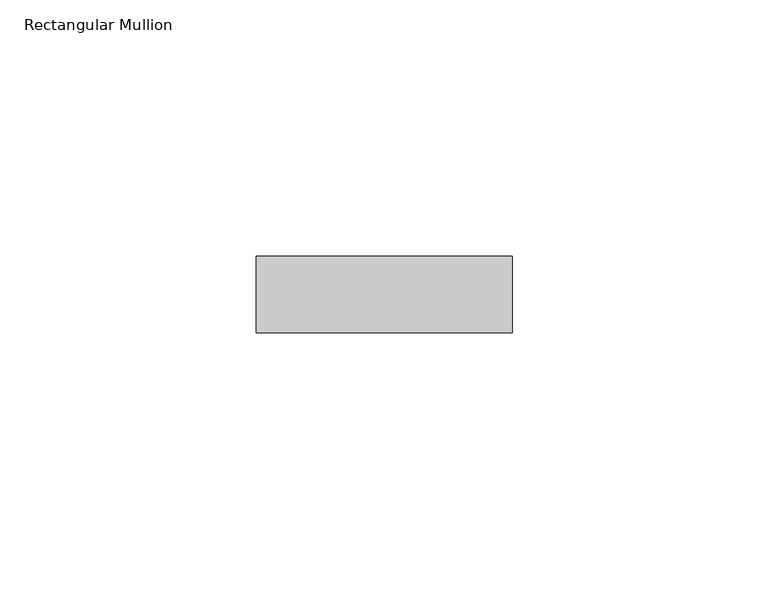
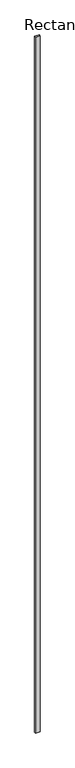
"""IFC4 building model written with IfcOpenShell, lengths in millimetres: member geometry, Rectangular Mullion : Ripa."""

import ifcopenshell
import ifcopenshell.guid

model = None  # the IFC model being written
_history = None  # IfcOwnerHistory: only IFC2X3 demands one
_inside = {}  # id of a spatial element -> (the spatial element, [elements in it])
_under = {}  # id of a project, library or spatial element -> (it, [spatial elements below it])
_declared = {}  # id of a project -> (the project, [libraries it declares])
_typed = {}  # id of a type object -> (the type object, [elements of that type])
_made_of = {}  # id of a material, layer set ... -> (it, [elements and type objects made of it])


def new_model(schema):
    """Start an empty IFC model of exactly this schema.

    Asked for "IFC4X3", IfcOpenShell would pick the latest addendum, in which some entities
    have other attributes; the version numbers below select the first issue.
    IFC2X3 requires an IfcOwnerHistory on every rooted entity: one is made here for all.
    """
    global model, _history
    if schema == "IFC4X3":
        model = ifcopenshell.file(schema_version=(4, 3, 0, 0))
    else:
        model = ifcopenshell.file(schema=schema)
    _inside.clear()
    _under.clear()
    _declared.clear()
    _typed.clear()
    _made_of.clear()
    _history = None
    if model.schema == "IFC2X3":
        org = make("IfcOrganization", Name="unknown")
        user = make(
            "IfcPersonAndOrganization",
            ThePerson=make("IfcPerson", FamilyName="unknown"),
            TheOrganization=org,
        )
        app = make(
            "IfcApplication",
            ApplicationDeveloper=org,
            Version="unknown",
            ApplicationFullName="unknown",
            ApplicationIdentifier="unknown",
        )
        _history = make(
            "IfcOwnerHistory",
            OwningUser=user,
            OwningApplication=app,
            ChangeAction="ADDED",
            CreationDate=0,
        )
    return model


def make(cls, **values):
    """One entity of the class cls with the attributes given. An attribute that is None is left unset."""
    return model.create_entity(
        cls, **{name: value for name, value in values.items() if value is not None}
    )


def rooted(cls, **values):
    """An entity with a GlobalId (a new one), such as an element, a storey or a relation."""
    return make(cls, GlobalId=ifcopenshell.guid.new(), OwnerHistory=_history, **values)


def si_unit(unit_type, name, prefix=None):
    """IfcSIUnit, for example si_unit("LENGTHUNIT", "METRE", prefix="MILLI")."""
    return make("IfcSIUnit", UnitType=unit_type, Prefix=prefix, Name=name)


def assignment(units):
    """IfcUnitAssignment: the units of a project."""
    return None if units is None else make("IfcUnitAssignment", Units=units)


def point(xyz):
    """IfcCartesianPoint."""
    return None if xyz is None else make("IfcCartesianPoint", Coordinates=xyz)


def direction(xyz):
    """IfcDirection."""
    return None if xyz is None else make("IfcDirection", DirectionRatios=xyz)


def frame(location, z_axis=None, x_axis=None):
    """IfcAxis2Placement3D, a coordinate frame: its origin and axes. An axis left out is left unset."""
    return make(
        "IfcAxis2Placement3D",
        Location=point(location),
        Axis=direction(z_axis),
        RefDirection=direction(x_axis),
    )


def origin():
    """The frame at (0, 0, 0) with its axes left unset."""
    return frame((0.0, 0.0, 0.0))


def place(relative_to, where):
    """IfcLocalPlacement: puts the frame where relative to a parent placement (None: the world)."""
    return make(
        "IfcLocalPlacement", PlacementRelTo=relative_to, RelativePlacement=where
    )


def context(
    kind, dimensions, precision=None, world=None, true_north=None, identifier=None
):
    """IfcGeometricRepresentationContext, for example the 3D "Model" context."""
    return make(
        "IfcGeometricRepresentationContext",
        ContextIdentifier=identifier,
        ContextType=kind,
        CoordinateSpaceDimension=dimensions,
        Precision=precision,
        WorldCoordinateSystem=world,
        TrueNorth=true_north,
    )


def project(units=None, contexts=None):
    """IfcProject with its units and contexts."""
    return rooted(
        "IfcProject",
        Name="project",
        RepresentationContexts=contexts,
        UnitsInContext=assignment(units),
    )


def spatial(cls, under=None, at=None, **own):
    """A site, building, storey or space (cls), placed at a placement, below another one or the project."""
    s = rooted(cls, ObjectPlacement=at, **own)
    if under is not None:
        _under.setdefault(under.id(), (under, []))[1].append(s)
    return s


def polyline(points):
    """IfcPolyline through the points."""
    return make("IfcPolyline", Points=[point(p) for p in points])


def outline(outer, holes=None, kind="AREA"):
    """IfcArbitraryClosedProfileDef: a profile drawn as a closed curve; with holes, ...WithVoids."""
    if holes is None:
        return make("IfcArbitraryClosedProfileDef", ProfileType=kind, OuterCurve=outer)
    return make(
        "IfcArbitraryProfileDefWithVoids",
        ProfileType=kind,
        OuterCurve=outer,
        InnerCurves=holes,
    )


def extrude(swept, where, along, depth):
    """IfcExtrudedAreaSolid: the profile swept, set in the frame where, extruded along a direction by depth."""
    return make(
        "IfcExtrudedAreaSolid",
        SweptArea=swept,
        Position=where,
        ExtrudedDirection=direction(along),
        Depth=depth,
    )


def shape(context_of_items, identifier, shape_type, items):
    """IfcShapeRepresentation: the items that make up one representation, for example the "Body"."""
    return make(
        "IfcShapeRepresentation",
        ContextOfItems=context_of_items,
        RepresentationIdentifier=identifier,
        RepresentationType=shape_type,
        Items=items,
    )


def source(mapping_origin, context_of_items, identifier, shape_type, items):
    """IfcRepresentationMap: a shape defined once, which mapped items show again and again."""
    return make(
        "IfcRepresentationMap",
        MappingOrigin=mapping_origin,
        MappedRepresentation=shape(context_of_items, identifier, shape_type, items),
    )


def transform(
    local_origin,
    x_axis=None,
    y_axis=None,
    z_axis=None,
    scale=None,
    scale2=None,
    scale3=None,
    uniform=True,
):
    """IfcCartesianTransformationOperator3D, or its non-uniform kind. x_axis, y_axis, z_axis: its Axis1, 2, 3."""
    if uniform:
        return make(
            "IfcCartesianTransformationOperator3D",
            Axis1=direction(x_axis),
            Axis2=direction(y_axis),
            LocalOrigin=point(local_origin),
            Scale=scale,
            Axis3=direction(z_axis),
        )
    return make(
        "IfcCartesianTransformationOperator3DnonUniform",
        Axis1=direction(x_axis),
        Axis2=direction(y_axis),
        LocalOrigin=point(local_origin),
        Scale=scale,
        Axis3=direction(z_axis),
        Scale2=scale2,
        Scale3=scale3,
    )


def mapped(mapping_source, mapping_target):
    """IfcMappedItem: shows the shape of a source again, moved by a transform."""
    return make(
        "IfcMappedItem", MappingSource=mapping_source, MappingTarget=mapping_target
    )


def made_of(thing, what):
    """Note that an element or type object is made of a material, layer set ...; save() writes the relation."""
    if what is not None:
        _made_of.setdefault(what.id(), (what, []))[1].append(thing)
    return thing


def element(
    cls,
    number,
    at=None,
    inside=None,
    cuts=None,
    type_object=None,
    material=None,
    context=None,
    identifier="Body",
    shape_type=None,
    held_by="IfcProductDefinitionShape",
    body=None,
    shapes=None,
    **own,
):
    """One element of the class cls, such as IfcWall. Its Tag is "e" and its number.

    at: its placement. inside: the storey or other place that contains it. cuts: it is an
    opening in that element (IfcRelVoidsElement). A single representation is given by context,
    identifier, shape_type and body (its items); several are given by shapes. held_by: the class
    of the entity that holds the representations. save() writes the other relations.
    """
    e = rooted(cls, Tag="e%d" % number, ObjectPlacement=at, **own)
    if body is not None:
        shapes = [shape(context, identifier, shape_type, body)]
    if shapes is not None:
        e.Representation = make(held_by, Representations=shapes)
    if inside is not None:
        _inside.setdefault(inside.id(), (inside, []))[1].append(e)
    if cuts is not None:
        rooted(
            "IfcRelVoidsElement", RelatingBuildingElement=cuts, RelatedOpeningElement=e
        )
    if type_object is not None:
        _typed.setdefault(type_object.id(), (type_object, []))[1].append(e)
    return made_of(e, material)


def aggregate(whole, parts):
    """IfcRelAggregates: a whole, such as a stair, and the parts it consists of."""
    return rooted("IfcRelAggregates", RelatingObject=whole, RelatedObjects=parts)


def save(model, path):
    """Write the relations noted so far, then the file.

    IfcRelAggregates (storeys below a building ...), IfcRelContainedInSpatialStructure (elements
    in a storey), IfcRelDefinesByType, IfcRelAssociatesMaterial and IfcRelDeclares: one each for
    every whole, place, type object, material and project.
    """
    for whole, parts in _under.values():
        aggregate(whole, parts)
    for where, things in _inside.values():
        rooted(
            "IfcRelContainedInSpatialStructure",
            RelatedElements=things,
            RelatingStructure=where,
        )
    for kind, things in _typed.values():
        rooted("IfcRelDefinesByType", RelatedObjects=things, RelatingType=kind)
    for what, things in _made_of.values():
        rooted("IfcRelAssociatesMaterial", RelatedObjects=things, RelatingMaterial=what)
    for by, libraries in _declared.values():
        rooted("IfcRelDeclares", RelatingContext=by, RelatedDefinitions=libraries)
    model.write(path)


def rectangular_mullion_77964d67(model_context):
    return source(origin(), model_context, "Body", "SweptSolid", [
        extrude(outline(polyline([(0.0, -75.0), (-50.0, -75.0), (-50.0, -60.0), (0.0, -60.0), (0.0, -75.0)])), frame((0.0, 0.0, -8000.0), z_axis=(0.0, 0.0, 1.0), x_axis=(1.0, 0.0, 0.0)), (0.0, 0.0, 1.0), 8000.0),
    ])


if __name__ == "__main__":
    model = new_model("IFC4")
    model_context = context("Model", 3, world=origin())
    ifc_project = project(units=[si_unit("LENGTHUNIT", "METRE", prefix="MILLI")], contexts=[model_context])
    site = spatial("IfcSite", under=ifc_project)
    building = spatial("IfcBuilding", under=site)
    placement = place(None, origin())
    rectangular_mullion_shape = rectangular_mullion_77964d67(model_context)
    element("IfcMember", 1, ObjectType="Rectangular Mullion : Ripa", at=placement, inside=building, context=model_context, shape_type="MappedRepresentation", body=[
        mapped(rectangular_mullion_shape, transform((0.0, 0.0, 0.0), x_axis=(1.0, 0.0, 0.0), y_axis=(0.0, 1.0, 0.0), z_axis=(0.0, 0.0, 1.0))),
    ])
    save(model, "model.ifc")
